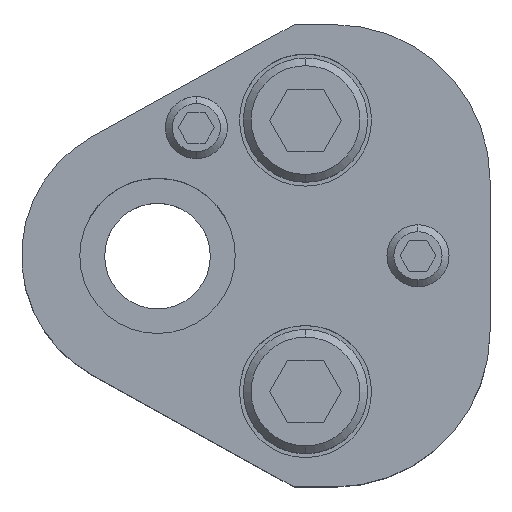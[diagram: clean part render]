
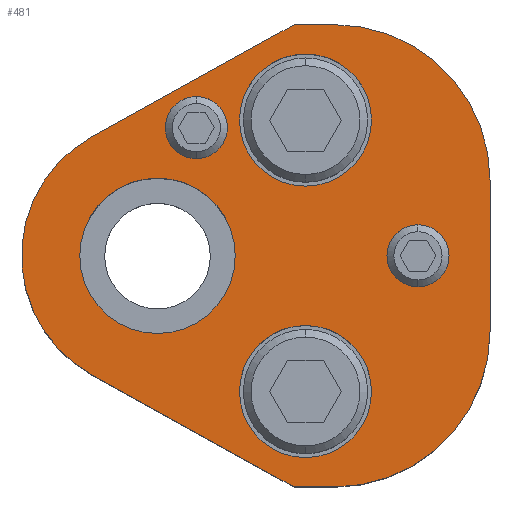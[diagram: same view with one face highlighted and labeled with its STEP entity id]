
A CAD part, top view. The second image highlights one B-rep face of the part: STEP entity #481.
In plain terms, the highlighted planar face has unit normal (0, 0, 1).
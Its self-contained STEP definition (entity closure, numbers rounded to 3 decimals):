
#213=FACE_BOUND('',#843,.T.);
#214=FACE_BOUND('',#844,.T.);
#215=FACE_BOUND('',#845,.T.);
#216=FACE_BOUND('',#846,.T.);
#217=FACE_BOUND('',#847,.T.);
#218=FACE_BOUND('',#848,.T.);
#303=CIRCLE('',#2712,20.);
#305=CIRCLE('',#2716,20.);
#308=CIRCLE('',#2722,17.5);
#309=CIRCLE('',#2724,4.);
#311=CIRCLE('',#2727,4.);
#313=CIRCLE('',#2730,4.);
#315=CIRCLE('',#2733,4.);
#325=CIRCLE('',#2748,8.5);
#326=CIRCLE('',#2749,8.5);
#327=CIRCLE('',#2750,8.5);
#328=CIRCLE('',#2751,8.5);
#329=CIRCLE('',#2752,10.);
#330=CIRCLE('',#2753,10.);
#481=ADVANCED_FACE('',(#213,#214,#215,#216,#217,#218),#595,.T.);
#595=PLANE('',#2754);
#843=EDGE_LOOP('',(#1257,#1258,#1259,#1260,#1261,#1262,#1263,#1264));
#844=EDGE_LOOP('',(#1265,#1266));
#845=EDGE_LOOP('',(#1267,#1268));
#846=EDGE_LOOP('',(#1269,#1270));
#847=EDGE_LOOP('',(#1271,#1272));
#848=EDGE_LOOP('',(#1273,#1274));
#1257=ORIENTED_EDGE('',*,*,#1996,.T.);
#1258=ORIENTED_EDGE('',*,*,#2000,.T.);
#1259=ORIENTED_EDGE('',*,*,#2003,.T.);
#1260=ORIENTED_EDGE('',*,*,#2006,.T.);
#1261=ORIENTED_EDGE('',*,*,#2009,.T.);
#1262=ORIENTED_EDGE('',*,*,#2012,.T.);
#1263=ORIENTED_EDGE('',*,*,#2015,.T.);
#1264=ORIENTED_EDGE('',*,*,#2018,.T.);
#1265=ORIENTED_EDGE('',*,*,#2043,.F.);
#1266=ORIENTED_EDGE('',*,*,#2044,.F.);
#1267=ORIENTED_EDGE('',*,*,#2045,.F.);
#1268=ORIENTED_EDGE('',*,*,#2046,.F.);
#1269=ORIENTED_EDGE('',*,*,#2029,.F.);
#1270=ORIENTED_EDGE('',*,*,#2025,.F.);
#1271=ORIENTED_EDGE('',*,*,#2023,.F.);
#1272=ORIENTED_EDGE('',*,*,#2019,.F.);
#1273=ORIENTED_EDGE('',*,*,#2047,.T.);
#1274=ORIENTED_EDGE('',*,*,#2048,.T.);
#1728=VERTEX_POINT('',#4024);
#1729=VERTEX_POINT('',#4026);
#1732=VERTEX_POINT('',#4033);
#1734=VERTEX_POINT('',#4039);
#1736=VERTEX_POINT('',#4045);
#1738=VERTEX_POINT('',#4051);
#1740=VERTEX_POINT('',#4057);
#1742=VERTEX_POINT('',#4063);
#1743=VERTEX_POINT('',#4071);
#1744=VERTEX_POINT('',#4072);
#1747=VERTEX_POINT('',#4083);
#1748=VERTEX_POINT('',#4084);
#1759=VERTEX_POINT('',#4119);
#1760=VERTEX_POINT('',#4120);
#1761=VERTEX_POINT('',#4123);
#1762=VERTEX_POINT('',#4124);
#1763=VERTEX_POINT('',#4127);
#1764=VERTEX_POINT('',#4128);
#1996=EDGE_CURVE('',#1729,#1728,#2294,.T.);
#2000=EDGE_CURVE('',#1728,#1732,#2298,.T.);
#2003=EDGE_CURVE('',#1732,#1734,#303,.T.);
#2006=EDGE_CURVE('',#1734,#1736,#2302,.T.);
#2009=EDGE_CURVE('',#1736,#1738,#305,.T.);
#2012=EDGE_CURVE('',#1738,#1740,#2306,.T.);
#2015=EDGE_CURVE('',#1740,#1742,#2309,.T.);
#2018=EDGE_CURVE('',#1742,#1729,#308,.T.);
#2019=EDGE_CURVE('',#1743,#1744,#309,.T.);
#2023=EDGE_CURVE('',#1744,#1743,#311,.T.);
#2025=EDGE_CURVE('',#1747,#1748,#313,.T.);
#2029=EDGE_CURVE('',#1748,#1747,#315,.T.);
#2043=EDGE_CURVE('',#1759,#1760,#325,.T.);
#2044=EDGE_CURVE('',#1760,#1759,#326,.T.);
#2045=EDGE_CURVE('',#1761,#1762,#327,.T.);
#2046=EDGE_CURVE('',#1762,#1761,#328,.T.);
#2047=EDGE_CURVE('',#1763,#1764,#329,.T.);
#2048=EDGE_CURVE('',#1764,#1763,#330,.T.);
#2294=LINE('',#4025,#2486);
#2298=LINE('',#4034,#2490);
#2302=LINE('',#4046,#2494);
#2306=LINE('',#4058,#2498);
#2309=LINE('',#4064,#2501);
#2486=VECTOR('',#3186,1.);
#2490=VECTOR('',#3192,1.);
#2494=VECTOR('',#3204,1.);
#2498=VECTOR('',#3216,1.);
#2501=VECTOR('',#3221,1.);
#2712=AXIS2_PLACEMENT_3D('',#4040,#3197,#3198);
#2716=AXIS2_PLACEMENT_3D('',#4052,#3209,#3210);
#2722=AXIS2_PLACEMENT_3D('',#4068,#3227,#3228);
#2724=AXIS2_PLACEMENT_3D('',#4070,#3231,#3232);
#2727=AXIS2_PLACEMENT_3D('',#4079,#3239,#3240);
#2730=AXIS2_PLACEMENT_3D('',#4082,#3245,#3246);
#2733=AXIS2_PLACEMENT_3D('',#4091,#3253,#3254);
#2748=AXIS2_PLACEMENT_3D('',#4118,#3287,#3288);
#2749=AXIS2_PLACEMENT_3D('',#4121,#3289,#3290);
#2750=AXIS2_PLACEMENT_3D('',#4122,#3291,#3292);
#2751=AXIS2_PLACEMENT_3D('',#4125,#3293,#3294);
#2752=AXIS2_PLACEMENT_3D('',#4126,#3295,#3296);
#2753=AXIS2_PLACEMENT_3D('',#4129,#3297,#3298);
#2754=AXIS2_PLACEMENT_3D('',#4130,#3299,#3300);
#3186=DIRECTION('',(0.875,-0.485,0.));
#3192=DIRECTION('',(1.,0.,0.));
#3197=DIRECTION('',(0.,0.,1.));
#3198=DIRECTION('',(-0.707,0.707,0.));
#3204=DIRECTION('',(0.,1.,0.));
#3209=DIRECTION('',(0.,0.,1.));
#3210=DIRECTION('',(-0.707,-0.707,0.));
#3216=DIRECTION('',(-1.,0.,0.));
#3221=DIRECTION('',(-0.875,-0.485,0.));
#3227=DIRECTION('',(0.,0.,1.));
#3228=DIRECTION('',(1.,0.,0.));
#3231=DIRECTION('',(0.,0.,1.));
#3232=DIRECTION('',(-1.,0.,0.));
#3239=DIRECTION('',(0.,0.,1.));
#3240=DIRECTION('',(1.,0.,0.));
#3245=DIRECTION('',(0.,0.,1.));
#3246=DIRECTION('',(-1.,0.,0.));
#3253=DIRECTION('',(0.,0.,1.));
#3254=DIRECTION('',(1.,0.,0.));
#3287=DIRECTION('',(0.,0.,1.));
#3288=DIRECTION('',(1.,0.,0.));
#3289=DIRECTION('',(0.,0.,1.));
#3290=DIRECTION('',(-1.,0.,0.));
#3291=DIRECTION('',(0.,0.,1.));
#3292=DIRECTION('',(1.,0.,0.));
#3293=DIRECTION('',(0.,0.,1.));
#3294=DIRECTION('',(-1.,0.,0.));
#3295=DIRECTION('',(0.,0.,-1.));
#3296=DIRECTION('',(-1.,0.,0.));
#3297=DIRECTION('',(0.,0.,-1.));
#3298=DIRECTION('',(1.,0.,0.));
#3299=DIRECTION('',(0.,0.,1.));
#3300=DIRECTION('',(-0.875,0.485,0.));
#4024=CARTESIAN_POINT('',(17.574,-29.75,30.));
#4025=CARTESIAN_POINT('',(17.574,-29.75,30.));
#4026=CARTESIAN_POINT('',(-8.484,-15.306,30.));
#4033=CARTESIAN_POINT('',(22.8,-29.75,30.));
#4034=CARTESIAN_POINT('',(17.574,-29.75,30.));
#4039=CARTESIAN_POINT('',(42.8,-9.75,30.));
#4040=CARTESIAN_POINT('',(22.8,-9.75,30.));
#4045=CARTESIAN_POINT('',(42.8,9.75,30.));
#4046=CARTESIAN_POINT('',(42.8,9.75,30.));
#4051=CARTESIAN_POINT('',(22.8,29.75,30.));
#4052=CARTESIAN_POINT('',(22.8,9.75,30.));
#4057=CARTESIAN_POINT('',(17.574,29.75,30.));
#4058=CARTESIAN_POINT('',(17.574,29.75,30.));
#4063=CARTESIAN_POINT('',(-8.484,15.306,30.));
#4064=CARTESIAN_POINT('',(17.574,29.75,30.));
#4068=CARTESIAN_POINT('',(0.,0.,30.));
#4070=CARTESIAN_POINT('',(5.,16.5,30.));
#4071=CARTESIAN_POINT('',(5.,12.5,30.));
#4072=CARTESIAN_POINT('',(5.,20.5,30.));
#4079=CARTESIAN_POINT('',(5.,16.5,30.));
#4082=CARTESIAN_POINT('',(33.53,0.,30.));
#4083=CARTESIAN_POINT('',(33.53,-4.,30.));
#4084=CARTESIAN_POINT('',(33.53,4.,30.));
#4091=CARTESIAN_POINT('',(33.53,0.,30.));
#4118=CARTESIAN_POINT('',(19.05,17.47,30.));
#4119=CARTESIAN_POINT('',(19.05,25.97,30.));
#4120=CARTESIAN_POINT('',(19.05,8.97,30.));
#4121=CARTESIAN_POINT('',(19.05,17.47,30.));
#4122=CARTESIAN_POINT('',(19.05,-17.47,30.));
#4123=CARTESIAN_POINT('',(19.05,-8.97,30.));
#4124=CARTESIAN_POINT('',(19.05,-25.97,30.));
#4125=CARTESIAN_POINT('',(19.05,-17.47,30.));
#4126=CARTESIAN_POINT('',(0.,0.,30.));
#4127=CARTESIAN_POINT('',(0.,10.,30.));
#4128=CARTESIAN_POINT('',(0.,-10.,30.));
#4129=CARTESIAN_POINT('',(0.,0.,30.));
#4130=CARTESIAN_POINT('',(-8.484,-15.306,30.));
